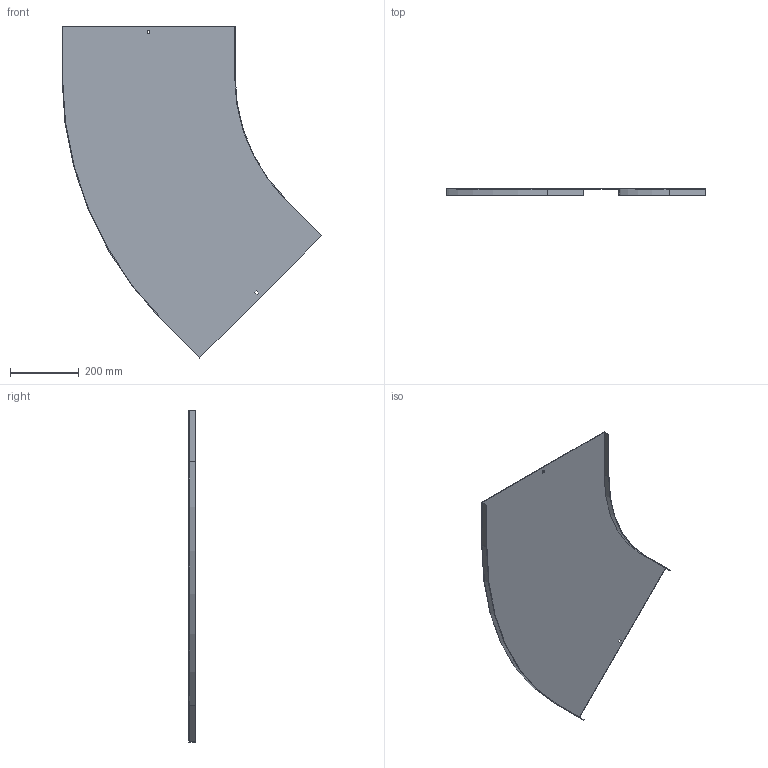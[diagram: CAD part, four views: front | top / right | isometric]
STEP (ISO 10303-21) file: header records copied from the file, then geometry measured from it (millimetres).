
FILE_DESCRIPTION (( 'STEP AP214' ), '1' );
FILE_NAME ('11N5R500.step', '2025-02-21T10:50:05', ( '' ), ( '' ), 'SwSTEP 2.0', 'SolidWorks 2023', '' );
FILE_SCHEMA (( 'AUTOMOTIVE_DESIGN' ));
Length unit declared in the file: millimetre
Products named in the file (1): 11N5R500
Bounding box: 755.07 x 20 x 964.23 mm (x, y, z)
Volume: 719953.9 mm3; surface area: 964318.7 mm2
Topology: 1 solids, 1 shells, 26 faces, 72 edges, 48 vertices
Faces by surface type: plane 22, cylinder 4
Entity records: 855 total; most frequent: CARTESIAN_POINT 147, ORIENTED_EDGE 144, DIRECTION 134, EDGE_CURVE 72, VECTOR 64, LINE 64, VERTEX_POINT 48, AXIS2_PLACEMENT_3D 35
